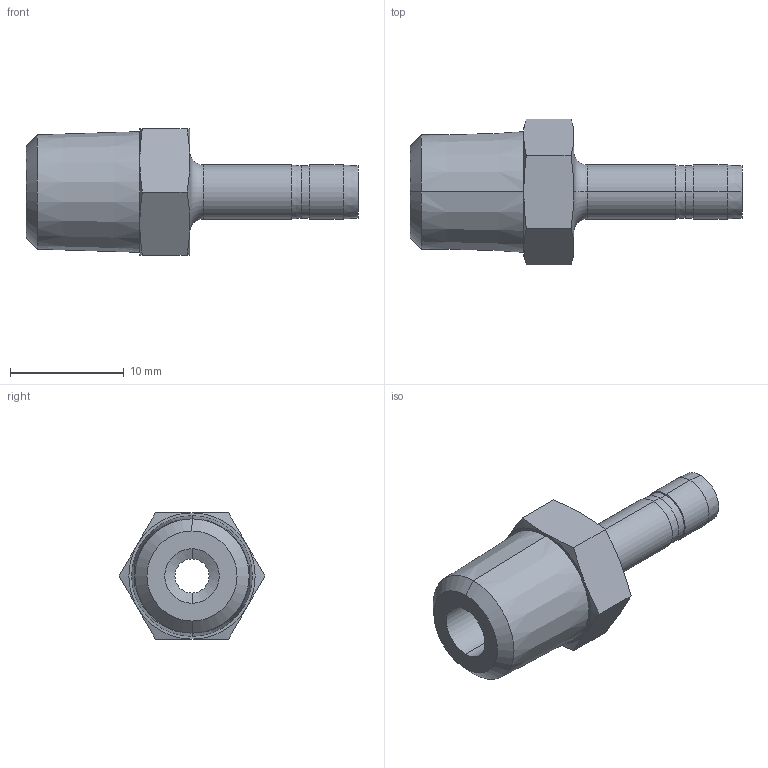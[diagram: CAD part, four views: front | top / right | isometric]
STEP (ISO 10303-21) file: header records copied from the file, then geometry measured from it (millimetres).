
FILE_DESCRIPTION (( 'STEP AP203' ), '1' );
FILE_NAME ('DHA03-02 SS.STEP', '2009-09-08T06:14:31', ( ' ' ), ( '' ), 'SwSTEP 2.0', 'SolidWorks 2008', '' );
FILE_SCHEMA (( 'CONFIG_CONTROL_DESIGN' ));
Length unit declared in the file: millimetre
Products named in the file (1): DHA03-02 SS
Bounding box: 29.2 x 12.83 x 11.11 mm (x, y, z)
Volume: 1223.4 mm3; surface area: 1205.4 mm2
Topology: 1 solids, 1 shells, 46 faces, 96 edges, 54 vertices
Faces by surface type: cone 24, cylinder 10, plane 10, torus 2
Entity records: 1317 total; most frequent: CARTESIAN_POINT 277, DIRECTION 210, ORIENTED_EDGE 192, EDGE_CURVE 96, AXIS2_PLACEMENT_3D 91, VERTEX_POINT 54, EDGE_LOOP 50, ADVANCED_FACE 46
